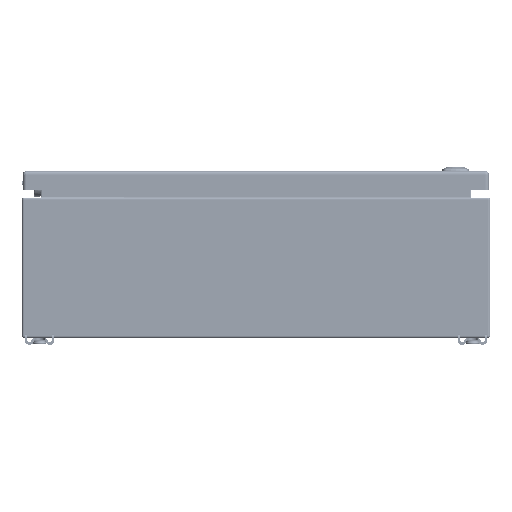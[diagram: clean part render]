
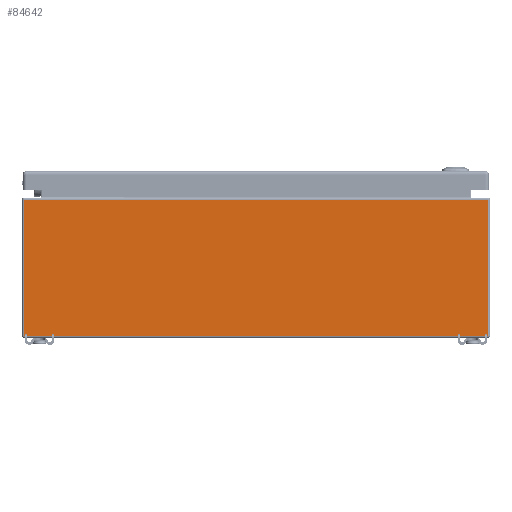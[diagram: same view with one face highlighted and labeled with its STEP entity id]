
A CAD part, front view. The second image highlights one B-rep face of the part: STEP entity #84642.
In plain terms, the highlighted planar face has unit normal (0, -1, 0).
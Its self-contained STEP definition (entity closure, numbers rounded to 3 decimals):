
#11685=FACE_OUTER_BOUND('',#16850,.T.);
#16850=EDGE_LOOP('',(#56371,#56372,#56373,#56374));
#22366=LINE('',#119570,#28307);
#22373=LINE('',#119585,#28314);
#22375=LINE('',#119592,#28316);
#22377=LINE('',#119601,#28318);
#28307=VECTOR('',#98554,0.394);
#28314=VECTOR('',#98567,0.394);
#28316=VECTOR('',#98575,0.394);
#28318=VECTOR('',#98587,0.394);
#34243=VERTEX_POINT('',#119540);
#34250=VERTEX_POINT('',#119566);
#34255=VERTEX_POINT('',#119584);
#34257=VERTEX_POINT('',#119590);
#42813=EDGE_CURVE('',#34243,#34250,#22366,.T.);
#42820=EDGE_CURVE('',#34250,#34255,#22373,.T.);
#42824=EDGE_CURVE('',#34257,#34243,#22375,.T.);
#42829=EDGE_CURVE('',#34257,#34255,#22377,.T.);
#56371=ORIENTED_EDGE('',*,*,#42813,.F.);
#56372=ORIENTED_EDGE('',*,*,#42824,.F.);
#56373=ORIENTED_EDGE('',*,*,#42829,.T.);
#56374=ORIENTED_EDGE('',*,*,#42820,.F.);
#82667=PLANE('',#90831);
#84642=ADVANCED_FACE('',(#11685),#82667,.F.);
#90831=AXIS2_PLACEMENT_3D('',#119612,#98601,#98602);
#98554=DIRECTION('',(1.,0.,0.));
#98567=DIRECTION('',(0.,0.,-1.));
#98575=DIRECTION('',(0.,0.,1.));
#98587=DIRECTION('',(1.,0.,0.));
#98601=DIRECTION('center_axis',(0.,1.,0.));
#98602=DIRECTION('ref_axis',(0.,0.,1.));
#119540=CARTESIAN_POINT('',(-9.916,-8.,5.916));
#119566=CARTESIAN_POINT('',(9.916,-8.,5.916));
#119570=CARTESIAN_POINT('',(4.979,-8.,5.916));
#119584=CARTESIAN_POINT('',(9.916,-8.,0.084));
#119585=CARTESIAN_POINT('',(9.916,-8.,3.));
#119590=CARTESIAN_POINT('',(-9.916,-8.,0.084));
#119592=CARTESIAN_POINT('',(-9.916,-8.,3.));
#119601=CARTESIAN_POINT('',(-4.958,-8.,0.084));
#119612=CARTESIAN_POINT('Origin',(0.,-8.,3.));
